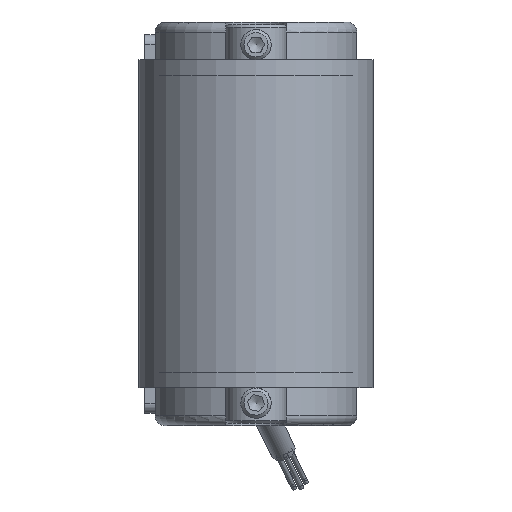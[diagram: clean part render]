
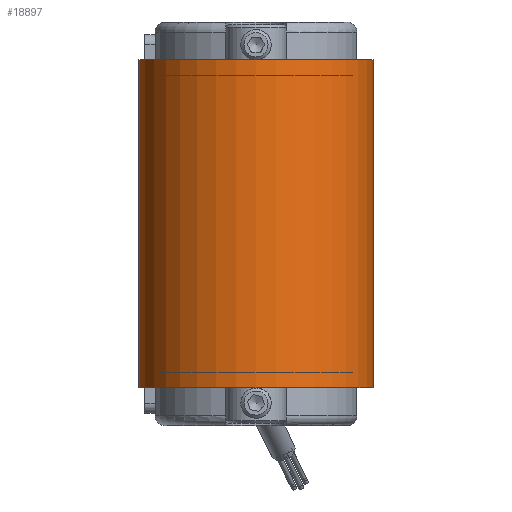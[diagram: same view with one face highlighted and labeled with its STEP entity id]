
A CAD part, front view. The second image highlights one B-rep face of the part: STEP entity #18897.
In plain terms, the highlighted cylindrical face has radius 23.3 mm (diameter 46.6 mm), a partial arc.
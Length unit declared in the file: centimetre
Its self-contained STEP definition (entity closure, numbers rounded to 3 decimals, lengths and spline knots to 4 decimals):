
#1478=FACE_OUTER_BOUND('',#2501,.T.);
#2501=EDGE_LOOP('',(#13037,#13038,#13039,#13040));
#3668=CIRCLE('',#20217,2.33);
#3671=CIRCLE('',#20223,2.33);
#4627=LINE('',#27806,#6163);
#4628=LINE('',#27810,#6164);
#6163=VECTOR('',#22807,1.);
#6164=VECTOR('',#22812,1.);
#7748=VERTEX_POINT('',#27789);
#7749=VERTEX_POINT('',#27790);
#7754=VERTEX_POINT('',#27804);
#7755=VERTEX_POINT('',#27808);
#9804=EDGE_CURVE('',#7748,#7749,#3668,.T.);
#9812=EDGE_CURVE('',#7754,#7749,#4627,.T.);
#9813=EDGE_CURVE('',#7754,#7755,#3671,.T.);
#9814=EDGE_CURVE('',#7748,#7755,#4628,.T.);
#13037=ORIENTED_EDGE('',*,*,#9813,.T.);
#13038=ORIENTED_EDGE('',*,*,#9814,.F.);
#13039=ORIENTED_EDGE('',*,*,#9804,.T.);
#13040=ORIENTED_EDGE('',*,*,#9812,.F.);
#17520=CYLINDRICAL_SURFACE('',#20222,2.33);
#18897=ADVANCED_FACE('',(#1478),#17520,.T.);
#20217=AXIS2_PLACEMENT_3D('',#27791,#22792,#22793);
#20222=AXIS2_PLACEMENT_3D('',#27807,#22808,#22809);
#20223=AXIS2_PLACEMENT_3D('',#27809,#22810,#22811);
#22792=DIRECTION('center_axis',(0.,0.,
-1.));
#22793=DIRECTION('ref_axis',(-1.,0.,0.));
#22807=DIRECTION('',(0.,0.,1.));
#22808=DIRECTION('center_axis',(0.,0.,
-1.));
#22809=DIRECTION('ref_axis',(-1.,0.,0.));
#22810=DIRECTION('center_axis',(0.,0.,
1.));
#22811=DIRECTION('ref_axis',(-1.,0.,0.));
#22812=DIRECTION('',(0.,0.,-1.));
#27789=CARTESIAN_POINT('',(2.33,-37.,3.25));
#27790=CARTESIAN_POINT('',(-2.33,-37.,3.25));
#27791=CARTESIAN_POINT('Origin',(0.,-37.,
3.25));
#27804=CARTESIAN_POINT('',(-2.33,-37.,-3.25));
#27806=CARTESIAN_POINT('',(-2.33,-37.,0.));
#27807=CARTESIAN_POINT('Origin',(0.,-37.,
0.));
#27808=CARTESIAN_POINT('',(2.33,-37.,-3.25));
#27809=CARTESIAN_POINT('Origin',(0.,-37.,
-3.25));
#27810=CARTESIAN_POINT('',(2.33,-37.,0.));
